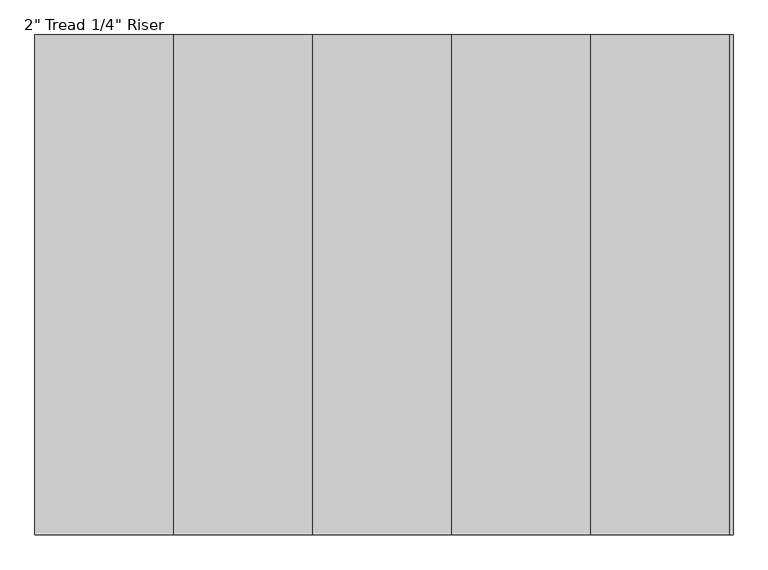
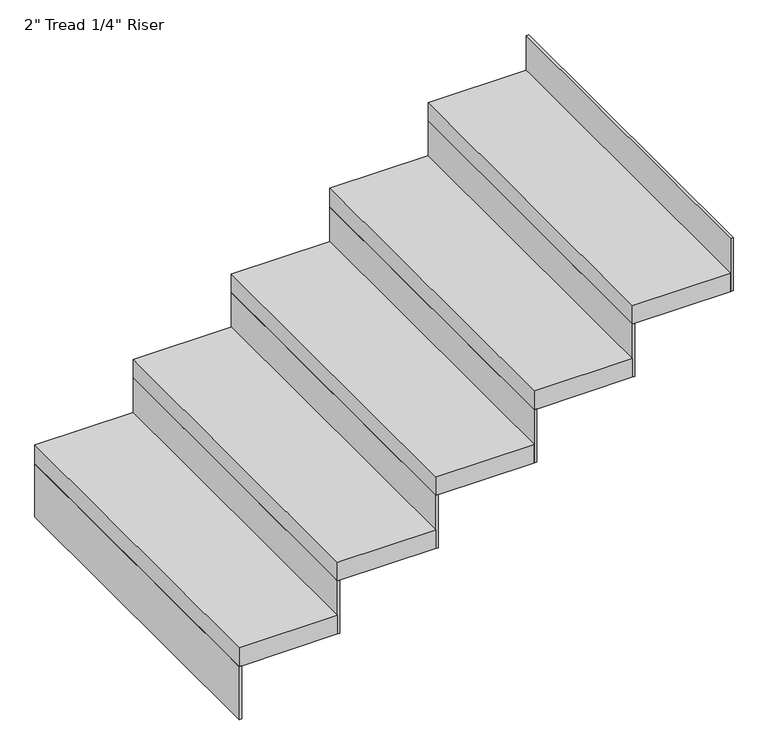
"""IFC4 building model written with IfcOpenShell, lengths in millimetres: stair flight geometry."""

from ifc_helpers import new_model, si_unit, frame, origin, place, context, project, spatial, polyline, outline, extrude, source, transform, mapped, element, save


def stair_flight_d5f8b534(model_context):
    return source(origin(), model_context, "Body", "SweptSolid", [
        extrude(outline(polyline([(138283.3974271, 15846.0395941), (138277.0474271, 15846.0395941), (138277.0474271, 16760.4395941), (138283.3974271, 16760.4395941), (138283.3974271, 15846.0395941)])), frame((0.0, 0.0, 2126.3428571), z_axis=(0.0, 0.0, 1.0), x_axis=(1.0, 0.0, 0.0)), (0.0, 0.0, 1.0), 145.1428571),
        extrude(outline(polyline([(138531.0474271, 16760.4395941), (138531.0474271, 15846.0395941), (138277.0474271, 15846.0395941), (138277.0474271, 16760.4395941), (138531.0474271, 16760.4395941)])), frame((0.0, 0.0, 2271.4857143), z_axis=(0.0, 0.0, 1.0), x_axis=(1.0, 0.0, 0.0)), (0.0, 0.0, 1.0), 50.8),
        extrude(outline(polyline([(138537.3974271, 15846.0395941), (138531.0474271, 15846.0395941), (138531.0474271, 16760.4395941), (138537.3974271, 16760.4395941), (138537.3974271, 15846.0395941)])), frame((0.0, 0.0, 2271.4857143), z_axis=(0.0, 0.0, 1.0), x_axis=(1.0, 0.0, 0.0)), (0.0, 0.0, 1.0), 145.1428571),
        extrude(outline(polyline([(138785.0474271, 16760.4395941), (138785.0474271, 15846.0395941), (138531.0474271, 15846.0395941), (138531.0474271, 16760.4395941), (138785.0474271, 16760.4395941)])), frame((0.0, 0.0, 2416.6285714), z_axis=(0.0, 0.0, 1.0), x_axis=(1.0, 0.0, 0.0)), (0.0, 0.0, 1.0), 50.8),
        extrude(outline(polyline([(138791.3974271, 15846.0395941), (138785.0474271, 15846.0395941), (138785.0474271, 16760.4395941), (138791.3974271, 16760.4395941), (138791.3974271, 15846.0395941)])), frame((0.0, 0.0, 2416.6285714), z_axis=(0.0, 0.0, 1.0), x_axis=(1.0, 0.0, 0.0)), (0.0, 0.0, 1.0), 145.1428571),
        extrude(outline(polyline([(139039.0474271, 16760.4395941), (139039.0474271, 15846.0395941), (138785.0474271, 15846.0395941), (138785.0474271, 16760.4395941), (139039.0474271, 16760.4395941)])), frame((0.0, 0.0, 2561.7714286), z_axis=(0.0, 0.0, 1.0), x_axis=(1.0, 0.0, 0.0)), (0.0, 0.0, 1.0), 50.8),
        extrude(outline(polyline([(139045.3974271, 15846.0395941), (139039.0474271, 15846.0395941), (139039.0474271, 16760.4395941), (139045.3974271, 16760.4395941), (139045.3974271, 15846.0395941)])), frame((0.0, 0.0, 2561.7714286), z_axis=(0.0, 0.0, 1.0), x_axis=(1.0, 0.0, 0.0)), (0.0, 0.0, 1.0), 145.1428571),
        extrude(outline(polyline([(139293.0474271, 16760.4395941), (139293.0474271, 15846.0395941), (139039.0474271, 15846.0395941), (139039.0474271, 16760.4395941), (139293.0474271, 16760.4395941)])), frame((0.0, 0.0, 2706.9142857), z_axis=(0.0, 0.0, 1.0), x_axis=(1.0, 0.0, 0.0)), (0.0, 0.0, 1.0), 50.8),
        extrude(outline(polyline([(139299.3974271, 15846.0395941), (139293.0474271, 15846.0395941), (139293.0474271, 16760.4395941), (139299.3974271, 16760.4395941), (139299.3974271, 15846.0395941)])), frame((0.0, 0.0, 2706.9142857), z_axis=(0.0, 0.0, 1.0), x_axis=(1.0, 0.0, 0.0)), (0.0, 0.0, 1.0), 145.1428571),
        extrude(outline(polyline([(139553.3974271, 15846.0395941), (139547.0474271, 15846.0395941), (139547.0474271, 16760.4395941), (139553.3974271, 16760.4395941), (139553.3974271, 15846.0395941)])), frame((0.0, 0.0, 2852.0571429), z_axis=(0.0, 0.0, 1.0), x_axis=(1.0, 0.0, 0.0)), (0.0, 0.0, 1.0), 145.1428571),
        extrude(outline(polyline([(139547.0474271, 16760.4395941), (139547.0474271, 15846.0395941), (139293.0474271, 15846.0395941), (139293.0474271, 16760.4395941), (139547.0474271, 16760.4395941)])), frame((0.0, 0.0, 2852.0571429), z_axis=(0.0, 0.0, 1.0), x_axis=(1.0, 0.0, 0.0)), (0.0, 0.0, 1.0), 50.8),
    ])


if __name__ == "__main__":
    model = new_model("IFC4")
    model_context = context("Model", 3, world=origin())
    ifc_project = project(units=[si_unit("LENGTHUNIT", "METRE", prefix="MILLI")], contexts=[model_context])
    site = spatial("IfcSite", under=ifc_project)
    building = spatial("IfcBuilding", under=site)
    placement = place(None, origin())
    stair_flight_shape = stair_flight_d5f8b534(model_context)
    element("IfcStairFlight", 1, ObjectType="2\" Tread 1/4\" Riser", at=placement, inside=building, context=model_context, shape_type="MappedRepresentation", body=[
        mapped(stair_flight_shape, transform((0.0, 0.0, 0.0), x_axis=(1.0, 0.0, 0.0), y_axis=(0.0, 1.0, 0.0), z_axis=(0.0, 0.0, 1.0))),
    ])
    save(model, "model.ifc")
